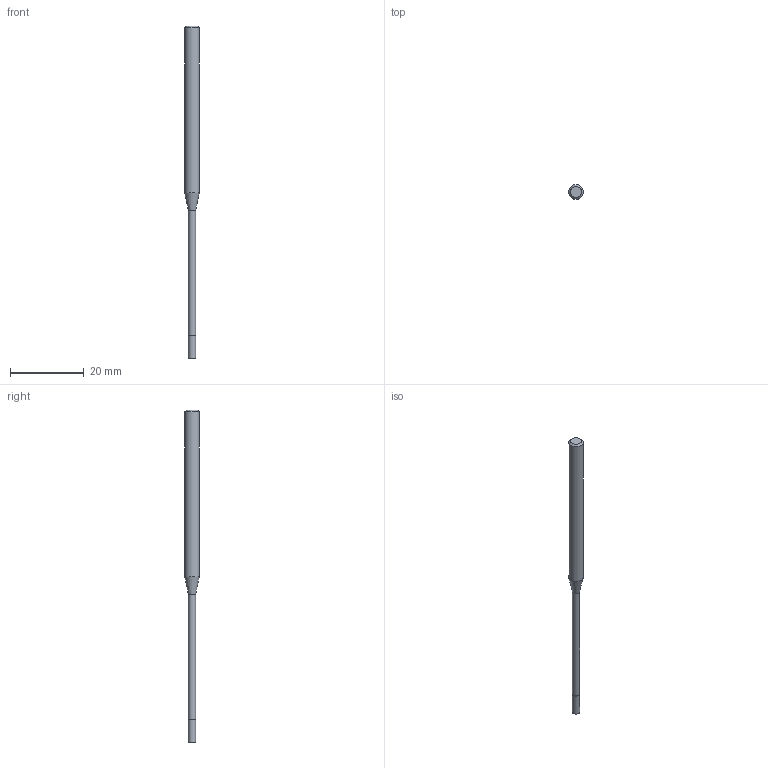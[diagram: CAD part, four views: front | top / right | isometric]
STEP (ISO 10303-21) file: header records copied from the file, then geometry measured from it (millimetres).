
FILE_DESCRIPTION((''),'2;1');
FILE_NAME('C:\Users\nsx150\Desktop\RSE230_20210427\01-00644-02040 RSE230 D2X6X40.step','2021-05-07T14:53:45',(''),(''),'STEP Write','Mastercam 2021 ... CNC Software, Inc.','');
FILE_SCHEMA(('AUTOMOTIVE_DESIGN'));
Length unit declared in the file: millimetre
Products named in the file (1): None
Bounding box: 4 x 4 x 90 mm (x, y, z)
Volume: 720.3 mm3; surface area: 876.4 mm2
Topology: 2 solids, 2 shells, 9 faces, 12 edges, 7 vertices
Faces by surface type: plane 4, cylinder 3, cone 2
Full cylindrical faces by diameter (mm): 1.94 x1, 2 x1, 4 x1
Entity records: 211 total; most frequent: DIRECTION 36, CARTESIAN_POINT 25, AXIS2_PLACEMENT_3D 18, ORIENTED_EDGE 14, EDGE_LOOP 14, STYLED_ITEM 12, ADVANCED_FACE 9, FACE_BOUND 8
